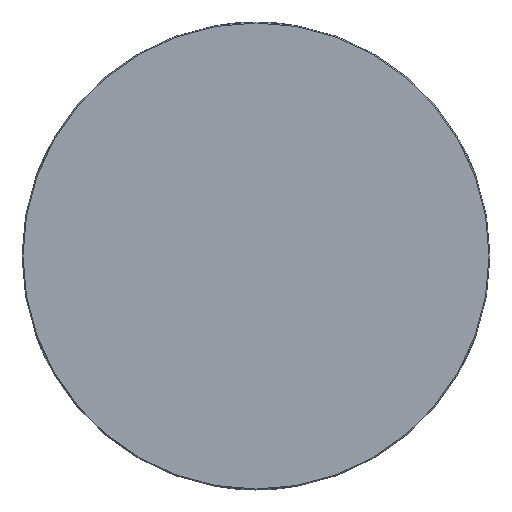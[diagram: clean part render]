
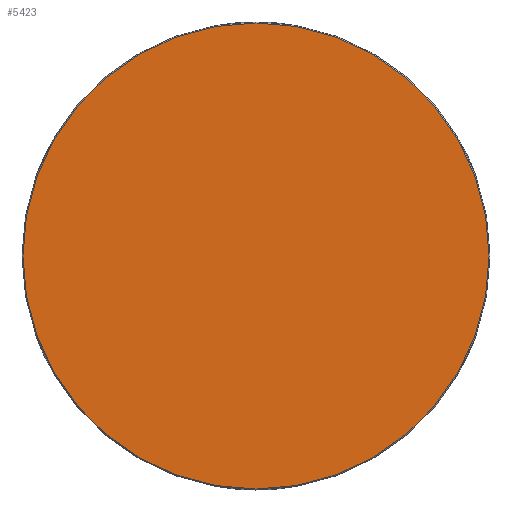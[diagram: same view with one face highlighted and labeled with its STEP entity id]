
A CAD part, front view. The second image highlights one B-rep face of the part: STEP entity #5423.
In plain terms, the highlighted planar face has unit normal (0, -1, 0).
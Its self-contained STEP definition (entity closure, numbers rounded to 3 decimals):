
#21 = DIRECTION ( 'NONE',  ( 0., 0., -1. ) ) ;
#29 = DIRECTION ( 'NONE',  ( 0., 1., 0. ) ) ;
#35 = CARTESIAN_POINT ( 'NONE',  ( 0., 0., 0. ) ) ;
#63 = PLANE ( 'NONE',  #5216 ) ;
#100 = CIRCLE ( 'NONE', #4420, 122.5 ) ;
#698 = VERTEX_POINT ( 'NONE', #3535 ) ;
#850 = EDGE_LOOP ( 'NONE', ( #2766, #2750 ) ) ;
#892 = CIRCLE ( 'NONE', #4878, 122.5 ) ;
#929 = EDGE_CURVE ( 'NONE', #5521, #698, #892, .T. ) ;
#1622 = EDGE_CURVE ( 'NONE', #698, #5521, #100, .T. ) ;
#2750 = ORIENTED_EDGE ( 'NONE', *, *, #1622, .T. ) ;
#2766 = ORIENTED_EDGE ( 'NONE', *, *, #929, .T. ) ;
#3375 = DIRECTION ( 'NONE',  ( 0., 0., -1. ) ) ;
#3387 = DIRECTION ( 'NONE',  ( 0., -1., 0. ) ) ;
#3390 = CARTESIAN_POINT ( 'NONE',  ( 0., 0., 0. ) ) ;
#3535 = CARTESIAN_POINT ( 'NONE',  ( 0., 0., 122.5 ) ) ;
#4058 = CARTESIAN_POINT ( 'NONE',  ( 0., 0., -122.5 ) ) ;
#4420 = AXIS2_PLACEMENT_3D ( 'NONE', #3390, #3387, #3375 ) ;
#4878 = AXIS2_PLACEMENT_3D ( 'NONE', #6275, #6273, #6262 ) ;
#5216 = AXIS2_PLACEMENT_3D ( 'NONE', #35, #29, #21 ) ;
#5423 = ADVANCED_FACE ( 'NONE', ( #6348 ), #63, .F. ) ;
#5521 = VERTEX_POINT ( 'NONE', #4058 ) ;
#6262 = DIRECTION ( 'NONE',  ( 0., 0., -1. ) ) ;
#6273 = DIRECTION ( 'NONE',  ( 0., -1., 0. ) ) ;
#6275 = CARTESIAN_POINT ( 'NONE',  ( 0., 0., 0. ) ) ;
#6348 = FACE_OUTER_BOUND ( 'NONE', #850, .T. ) ;
